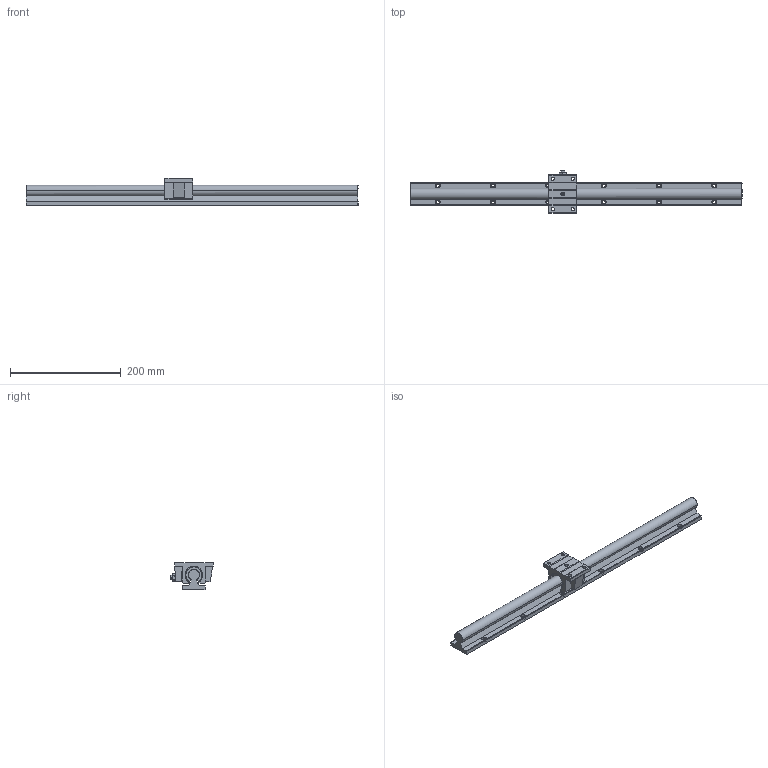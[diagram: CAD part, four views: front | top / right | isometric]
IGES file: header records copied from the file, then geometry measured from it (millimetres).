
Global section: file name: No Iges File Name specified; native system: AutoDesk Inventor R10; preprocessor: AutoDesk Inventor Iges Exporter R10; author: No Author specified; organization: No Organization specified; date: 20101221.092108; units: millimetre
Bounding box: 600 x 77 x 50 mm (x, y, z)
Surface area: 114094.8 mm2 (no closed solid volume)
Topology: 0 solids, 0 shells, 218 faces, 1610 edges, 1606 vertices
Faces by surface type: bspline 218
